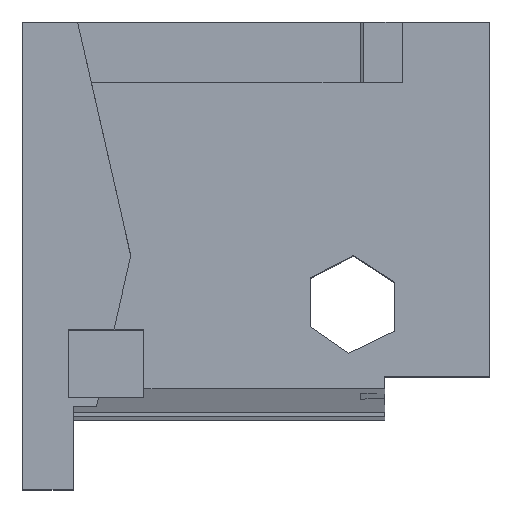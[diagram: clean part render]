
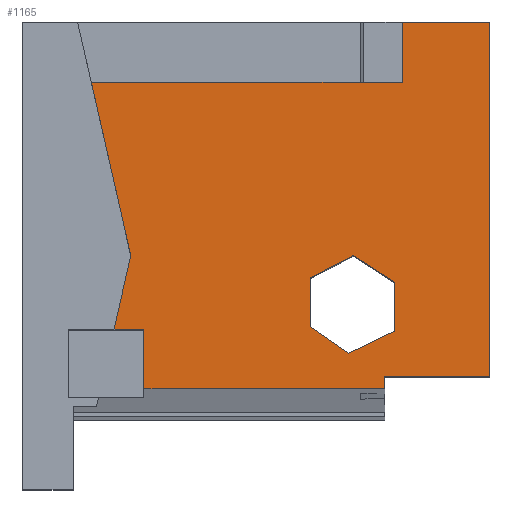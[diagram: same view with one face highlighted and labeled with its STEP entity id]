
A CAD part, top view. The second image highlights one B-rep face of the part: STEP entity #1165.
In plain terms, the highlighted planar face has unit normal (0, 0, 1).
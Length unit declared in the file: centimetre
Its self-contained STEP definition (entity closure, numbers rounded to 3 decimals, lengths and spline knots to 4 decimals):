
#8 = VERTEX_POINT ( 'NONE', #474 ) ;
#10 = EDGE_CURVE ( 'NONE', #1064, #176, #1718, .T. ) ;
#25 = VECTOR ( 'NONE', #203, 100. ) ;
#32 = LINE ( 'NONE', #983, #728 ) ;
#40 = LINE ( 'NONE', #178, #1094 ) ;
#60 = CARTESIAN_POINT ( 'NONE',  ( 118.1527, 1000., 1000. ) ) ;
#65 = CARTESIAN_POINT ( 'NONE',  ( 775.237, 214.6174, 1000. ) ) ;
#126 = LINE ( 'NONE', #684, #493 ) ;
#137 = ORIENTED_EDGE ( 'NONE', *, *, #946, .T. ) ;
#143 = LINE ( 'NONE', #288, #1206 ) ;
#150 = ORIENTED_EDGE ( 'NONE', *, *, #1326, .T. ) ;
#157 = VERTEX_POINT ( 'NONE', #1331 ) ;
#159 = DIRECTION ( 'NONE',  ( 0., -1., 0. ) ) ;
#162 = EDGE_CURVE ( 'NONE', #1538, #1576, #1757, .T. ) ;
#168 = CARTESIAN_POINT ( 'NONE',  ( 1000., 240.9399, 1000. ) ) ;
#171 = VECTOR ( 'NONE', #844, 100. ) ;
#176 = VERTEX_POINT ( 'NONE', #65 ) ;
#178 = CARTESIAN_POINT ( 'NONE',  ( 797.5246, 443.1792, 1000. ) ) ;
#186 = VERTEX_POINT ( 'NONE', #1623 ) ;
#192 = EDGE_CURVE ( 'NONE', #544, #1482, #497, .T. ) ;
#201 = VECTOR ( 'NONE', #354, 100. ) ;
#203 = DIRECTION ( 'NONE',  ( 1., 0., 0. ) ) ;
#207 = CARTESIAN_POINT ( 'NONE',  ( 616.0523, 347.8064, 1000. ) ) ;
#220 = DIRECTION ( 'NONE',  ( -0.823, 0.569, 0. ) ) ;
#258 = EDGE_CURVE ( 'NONE', #1451, #789, #1322, .T. ) ;
#281 = DIRECTION ( 'NONE',  ( 0., 0., 1. ) ) ;
#285 = VECTOR ( 'NONE', #1656, 100. ) ;
#288 = CARTESIAN_POINT ( 'NONE',  ( 0., 1000., 1000. ) ) ;
#306 = LINE ( 'NONE', #1532, #171 ) ;
#318 = VECTOR ( 'NONE', #220, 100. ) ;
#324 = ORIENTED_EDGE ( 'NONE', *, *, #1397, .T. ) ;
#325 = CARTESIAN_POINT ( 'NONE',  ( 232.0615, 500., 1000. ) ) ;
#345 = CARTESIAN_POINT ( 'NONE',  ( 812.9726, 870.6669, 1000. ) ) ;
#354 = DIRECTION ( 'NONE',  ( -1., 0., 0. ) ) ;
#365 = EDGE_LOOP ( 'NONE', ( #525, #1140, #1474, #1639, #324, #402 ) ) ;
#391 = CARTESIAN_POINT ( 'NONE',  ( 616.0523, 347.8064, 1000. ) ) ;
#402 = ORIENTED_EDGE ( 'NONE', *, *, #192, .T. ) ;
#412 = ORIENTED_EDGE ( 'NONE', *, *, #985, .F. ) ;
#454 = DIRECTION ( 'NONE',  ( -0.901, -0.434, 0. ) ) ;
#474 = CARTESIAN_POINT ( 'NONE',  ( 797.5246, 338.4061, 1000. ) ) ;
#482 = DIRECTION ( 'NONE',  ( 0.891, 0.455, 0. ) ) ;
#493 = VECTOR ( 'NONE', #691, 100. ) ;
#497 = LINE ( 'NONE', #636, #318 ) ;
#510 = CARTESIAN_POINT ( 'NONE',  ( 775.237, 240.9399, 1000. ) ) ;
#520 = VECTOR ( 'NONE', #482, 100. ) ;
#525 = ORIENTED_EDGE ( 'NONE', *, *, #873, .T. ) ;
#528 = VERTEX_POINT ( 'NONE', #1514 ) ;
#544 = VERTEX_POINT ( 'NONE', #586 ) ;
#552 = ORIENTED_EDGE ( 'NONE', *, *, #1420, .F. ) ;
#576 = CARTESIAN_POINT ( 'NONE',  ( 812.9726, 1000., 1000. ) ) ;
#583 = DIRECTION ( 'NONE',  ( 0., -1., 0. ) ) ;
#586 = CARTESIAN_POINT ( 'NONE',  ( 698.6476, 290.7197, 1000. ) ) ;
#596 = LINE ( 'NONE', #984, #667 ) ;
#598 = CARTESIAN_POINT ( 'NONE',  ( 0., 0., 1000. ) ) ;
#601 = EDGE_CURVE ( 'NONE', #697, #1670, #1706, .T. ) ;
#623 = CARTESIAN_POINT ( 'NONE',  ( 709.5021, 500.2659, 1000. ) ) ;
#636 = CARTESIAN_POINT ( 'NONE',  ( 698.6476, 290.7197, 1000. ) ) ;
#642 = VECTOR ( 'NONE', #1407, 100. ) ;
#648 = ORIENTED_EDGE ( 'NONE', *, *, #162, .T. ) ;
#667 = VECTOR ( 'NONE', #583, 100. ) ;
#677 = DIRECTION ( 'NONE',  ( 0., 1., 0. ) ) ;
#684 = CARTESIAN_POINT ( 'NONE',  ( 97.9422, 341.9276, 1000. ) ) ;
#691 = DIRECTION ( 'NONE',  ( -1., 0., 0. ) ) ;
#697 = VERTEX_POINT ( 'NONE', #853 ) ;
#728 = VECTOR ( 'NONE', #993, 100. ) ;
#760 = CARTESIAN_POINT ( 'NONE',  ( 775.237, 240.9399, 1000. ) ) ;
#774 = VERTEX_POINT ( 'NONE', #909 ) ;
#789 = VERTEX_POINT ( 'NONE', #510 ) ;
#844 = DIRECTION ( 'NONE',  ( 0., 1., 0. ) ) ;
#853 = CARTESIAN_POINT ( 'NONE',  ( 616.0523, 452.5795, 1000. ) ) ;
#861 = LINE ( 'NONE', #1259, #1236 ) ;
#873 = EDGE_CURVE ( 'NONE', #1482, #697, #1781, .T. ) ;
#888 = CARTESIAN_POINT ( 'NONE',  ( 147.6171, 870.6669, 1000. ) ) ;
#909 = CARTESIAN_POINT ( 'NONE',  ( 1000., 1000., 1000. ) ) ;
#946 = EDGE_CURVE ( 'NONE', #1451, #774, #958, .T. ) ;
#953 = EDGE_CURVE ( 'NONE', #157, #186, #126, .T. ) ;
#958 = LINE ( 'NONE', #1364, #285 ) ;
#983 = CARTESIAN_POINT ( 'NONE',  ( 812.9726, 870.6669, 1000. ) ) ;
#984 = CARTESIAN_POINT ( 'NONE',  ( 775.237, 65.7682, 1000. ) ) ;
#985 = EDGE_CURVE ( 'NONE', #1538, #1163, #32, .T. ) ;
#993 = DIRECTION ( 'NONE',  ( 0., 1., 0. ) ) ;
#1025 = CARTESIAN_POINT ( 'NONE',  ( 109.1597, 214.6174, 1000. ) ) ;
#1044 = EDGE_CURVE ( 'NONE', #186, #528, #1417, .T. ) ;
#1064 = VERTEX_POINT ( 'NONE', #1134 ) ;
#1078 = EDGE_CURVE ( 'NONE', #1231, #8, #40, .T. ) ;
#1094 = VECTOR ( 'NONE', #159, 100. ) ;
#1121 = VECTOR ( 'NONE', #677, 100. ) ;
#1134 = CARTESIAN_POINT ( 'NONE',  ( 260.2238, 214.6174, 1000. ) ) ;
#1140 = ORIENTED_EDGE ( 'NONE', *, *, #601, .T. ) ;
#1147 = EDGE_CURVE ( 'NONE', #1670, #1231, #1583, .T. ) ;
#1161 = DIRECTION ( 'NONE',  ( 0.839, -0.544, 0. ) ) ;
#1163 = VERTEX_POINT ( 'NONE', #576 ) ;
#1165 = ADVANCED_FACE ( 'NONE', ( #1535, #1421 ), #1264, .T. ) ;
#1166 = DIRECTION ( 'NONE',  ( -1., 0., 0. ) ) ;
#1206 = VECTOR ( 'NONE', #1378, 100. ) ;
#1231 = VERTEX_POINT ( 'NONE', #1393 ) ;
#1236 = VECTOR ( 'NONE', #454, 100. ) ;
#1250 = ORIENTED_EDGE ( 'NONE', *, *, #953, .F. ) ;
#1259 = CARTESIAN_POINT ( 'NONE',  ( 797.5246, 338.4061, 1000. ) ) ;
#1263 = AXIS2_PLACEMENT_3D ( 'NONE', #598, #281, #1527 ) ;
#1264 = PLANE ( 'NONE',  #1263 ) ;
#1322 = LINE ( 'NONE', #760, #1587 ) ;
#1326 = EDGE_CURVE ( 'NONE', #774, #1163, #143, .T. ) ;
#1331 = CARTESIAN_POINT ( 'NONE',  ( 260.2238, 341.9276, 1000. ) ) ;
#1359 = EDGE_CURVE ( 'NONE', #789, #176, #596, .T. ) ;
#1364 = CARTESIAN_POINT ( 'NONE',  ( 1000., 1000., 1000. ) ) ;
#1378 = DIRECTION ( 'NONE',  ( -1., 0., 0. ) ) ;
#1382 = VECTOR ( 'NONE', #1426, 100. ) ;
#1393 = CARTESIAN_POINT ( 'NONE',  ( 797.5246, 443.1792, 1000. ) ) ;
#1397 = EDGE_CURVE ( 'NONE', #8, #544, #861, .T. ) ;
#1406 = ORIENTED_EDGE ( 'NONE', *, *, #1044, .F. ) ;
#1407 = DIRECTION ( 'NONE',  ( 0.222, 0.975, 0. ) ) ;
#1417 = LINE ( 'NONE', #325, #642 ) ;
#1420 = EDGE_CURVE ( 'NONE', #1064, #157, #306, .T. ) ;
#1421 = FACE_BOUND ( 'NONE', #365, .T. ) ;
#1426 = DIRECTION ( 'NONE',  ( -0.222, 0.975, 0. ) ) ;
#1435 = CARTESIAN_POINT ( 'NONE',  ( 616.0523, 452.5795, 1000. ) ) ;
#1451 = VERTEX_POINT ( 'NONE', #168 ) ;
#1452 = EDGE_LOOP ( 'NONE', ( #1456, #1406, #1250, #552, #1485, #1638, #1492, #137, #150, #412, #648 ) ) ;
#1456 = ORIENTED_EDGE ( 'NONE', *, *, #1509, .F. ) ;
#1461 = CARTESIAN_POINT ( 'NONE',  ( 709.5021, 500.2659, 1000. ) ) ;
#1474 = ORIENTED_EDGE ( 'NONE', *, *, #1147, .T. ) ;
#1482 = VERTEX_POINT ( 'NONE', #207 ) ;
#1485 = ORIENTED_EDGE ( 'NONE', *, *, #10, .T. ) ;
#1492 = ORIENTED_EDGE ( 'NONE', *, *, #258, .F. ) ;
#1509 = EDGE_CURVE ( 'NONE', #528, #1576, #1721, .T. ) ;
#1514 = CARTESIAN_POINT ( 'NONE',  ( 232.0615, 500., 1000. ) ) ;
#1527 = DIRECTION ( 'NONE',  ( 1., 0., 0. ) ) ;
#1532 = CARTESIAN_POINT ( 'NONE',  ( 260.2238, 197.5125, 1000. ) ) ;
#1535 = FACE_OUTER_BOUND ( 'NONE', #1452, .T. ) ;
#1538 = VERTEX_POINT ( 'NONE', #345 ) ;
#1576 = VERTEX_POINT ( 'NONE', #888 ) ;
#1583 = LINE ( 'NONE', #623, #1618 ) ;
#1587 = VECTOR ( 'NONE', #1166, 100. ) ;
#1618 = VECTOR ( 'NONE', #1161, 100. ) ;
#1623 = CARTESIAN_POINT ( 'NONE',  ( 196.0498, 341.9276, 1000. ) ) ;
#1638 = ORIENTED_EDGE ( 'NONE', *, *, #1359, .F. ) ;
#1639 = ORIENTED_EDGE ( 'NONE', *, *, #1078, .T. ) ;
#1656 = DIRECTION ( 'NONE',  ( 0., 1., 0. ) ) ;
#1670 = VERTEX_POINT ( 'NONE', #1461 ) ;
#1706 = LINE ( 'NONE', #1435, #520 ) ;
#1718 = LINE ( 'NONE', #1025, #25 ) ;
#1721 = LINE ( 'NONE', #60, #1382 ) ;
#1734 = CARTESIAN_POINT ( 'NONE',  ( 812.9726, 870.6669, 1000. ) ) ;
#1757 = LINE ( 'NONE', #1734, #201 ) ;
#1781 = LINE ( 'NONE', #391, #1121 ) ;
